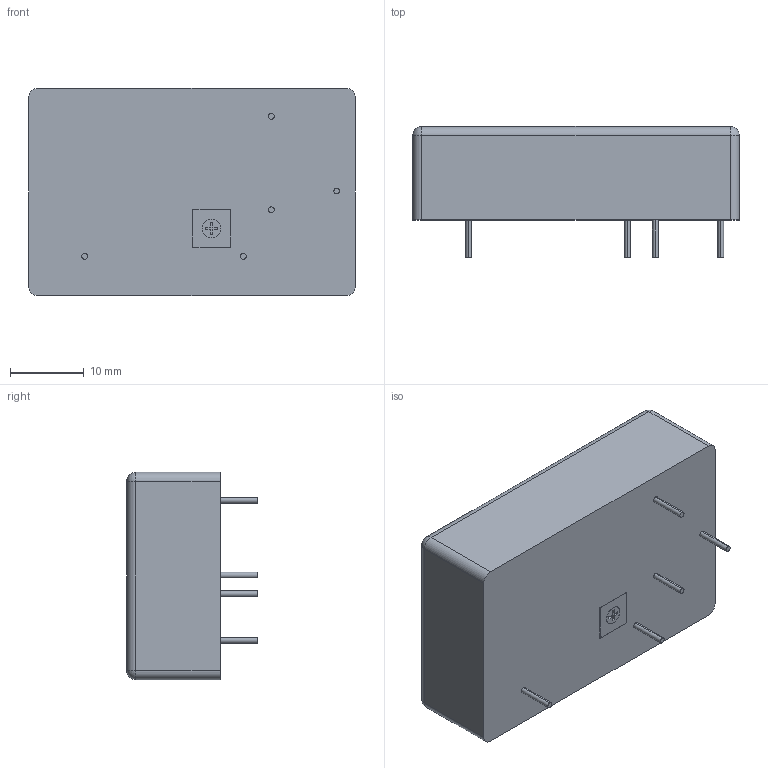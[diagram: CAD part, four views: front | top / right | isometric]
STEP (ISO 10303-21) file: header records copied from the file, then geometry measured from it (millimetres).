
FILE_DESCRIPTION (( 'STEP AP203' ), '1' );
FILE_NAME ('XP EMCO C25-C40 - 4711CR.STEP', '2016-10-03T18:57:07', ( '' ), ( '' ), 'SwSTEP 2.0', 'SolidWorks 2014', '' );
FILE_SCHEMA (( 'CONFIG_CONTROL_DESIGN' ));
Length unit declared in the file: inch
Products named in the file (1): XP EMCO C25-C40 - 4711CR
Bounding box: 44.45 x 17.78 x 28.19 mm (x, y, z)
Volume: 15861 mm3; surface area: 4307.7 mm2
Topology: 1 solids, 1 shells, 54 faces, 124 edges, 76 vertices
Faces by surface type: plane 30, cylinder 20, sphere 4
Entity records: 1567 total; most frequent: DIRECTION 270, CARTESIAN_POINT 251, ORIENTED_EDGE 240, EDGE_CURVE 120, AXIS2_PLACEMENT_3D 95, LINE 80, VECTOR 80, VERTEX_POINT 76
